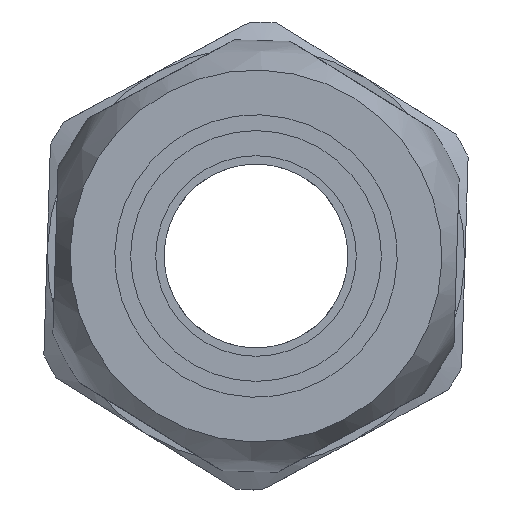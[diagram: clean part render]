
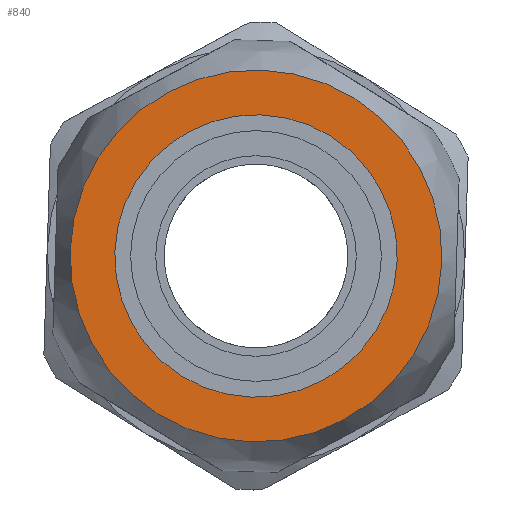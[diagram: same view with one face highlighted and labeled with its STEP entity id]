
A CAD part, left-side view. The second image highlights one B-rep face of the part: STEP entity #840.
In plain terms, the highlighted planar face has unit normal (-1, 0, 0).
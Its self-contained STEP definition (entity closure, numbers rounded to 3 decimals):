
#134=PLANE('',#961);
#167=FACE_BOUND('',#320,.T.);
#227=FACE_OUTER_BOUND('',#319,.T.);
#319=EDGE_LOOP('',(#760,#761));
#320=EDGE_LOOP('',(#762));
#374=CIRCLE('',#955,11.124);
#375=CIRCLE('',#956,11.124);
#377=CIRCLE('',#960,8.45);
#450=VERTEX_POINT('',#1851);
#451=VERTEX_POINT('',#1855);
#453=VERTEX_POINT('',#1862);
#553=EDGE_CURVE('',#450,#451,#374,.T.);
#554=EDGE_CURVE('',#451,#450,#375,.T.);
#556=EDGE_CURVE('',#453,#453,#377,.T.);
#760=ORIENTED_EDGE('',*,*,#554,.F.);
#761=ORIENTED_EDGE('',*,*,#553,.F.);
#762=ORIENTED_EDGE('',*,*,#556,.T.);
#840=ADVANCED_FACE('',(#227,#167),#134,.T.);
#955=AXIS2_PLACEMENT_3D('',#1856,#1200,#1201);
#956=AXIS2_PLACEMENT_3D('',#1857,#1202,#1203);
#960=AXIS2_PLACEMENT_3D('',#1863,#1210,#1211);
#961=AXIS2_PLACEMENT_3D('',#1864,#1212,#1213);
#1200=DIRECTION('center_axis',(1.,0.,0.));
#1201=DIRECTION('ref_axis',(0.,1.,0.));
#1202=DIRECTION('center_axis',(1.,0.,0.));
#1203=DIRECTION('ref_axis',(0.,1.,0.));
#1210=DIRECTION('center_axis',(1.,0.,0.));
#1211=DIRECTION('ref_axis',(0.,1.,0.));
#1212=DIRECTION('center_axis',(-1.,0.,0.));
#1213=DIRECTION('ref_axis',(0.,0.,1.));
#1851=CARTESIAN_POINT('',(0.,0.,11.124));
#1855=CARTESIAN_POINT('',(0.,11.124,0.));
#1856=CARTESIAN_POINT('Origin',(0.,0.,0.));
#1857=CARTESIAN_POINT('Origin',(0.,0.,0.));
#1862=CARTESIAN_POINT('',(0.,8.45,0.));
#1863=CARTESIAN_POINT('Origin',(0.,0.,0.));
#1864=CARTESIAN_POINT('Origin',(0.,9.787,
0.));
